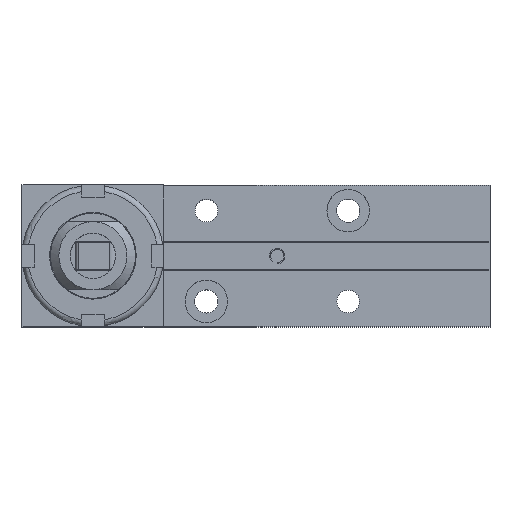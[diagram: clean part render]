
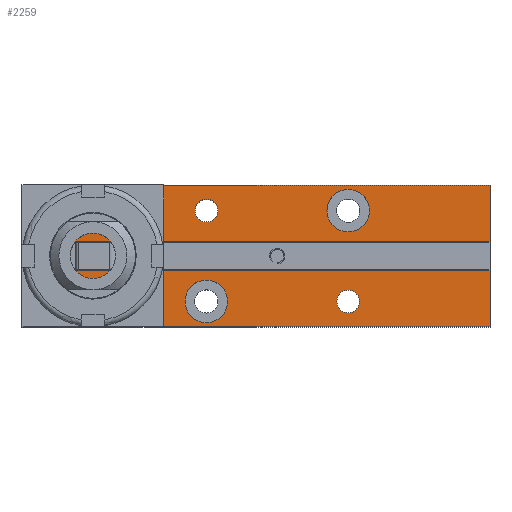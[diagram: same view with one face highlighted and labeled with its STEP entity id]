
A CAD part, top view. The second image highlights one B-rep face of the part: STEP entity #2259.
In plain terms, the highlighted planar face has unit normal (0, 0, 1).
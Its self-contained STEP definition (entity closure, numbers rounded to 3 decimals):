
#161=LINE('',#3450,#294);
#163=LINE('',#3453,#296);
#165=LINE('',#3519,#298);
#167=LINE('',#3525,#300);
#168=LINE('',#3534,#301);
#170=LINE('',#3538,#303);
#172=LINE('',#3541,#305);
#294=VECTOR('',#2735,10.);
#296=VECTOR('',#2739,73.5);
#298=VECTOR('',#2825,73.5);
#300=VECTOR('',#2831,10.);
#301=VECTOR('',#2842,82.5);
#303=VECTOR('',#2846,25.);
#305=VECTOR('',#2850,82.5);
#428=PLANE('',#2461);
#522=FACE_BOUND('',#790,.T.);
#523=FACE_BOUND('',#791,.T.);
#524=FACE_BOUND('',#792,.T.);
#525=FACE_BOUND('',#793,.T.);
#526=FACE_BOUND('',#794,.T.);
#527=FACE_BOUND('',#795,.T.);
#528=FACE_BOUND('',#796,.T.);
#529=FACE_BOUND('',#797,.T.);
#530=FACE_BOUND('',#798,.T.);
#790=EDGE_LOOP('',(#1699));
#791=EDGE_LOOP('',(#1700));
#792=EDGE_LOOP('',(#1701));
#793=EDGE_LOOP('',(#1702));
#794=EDGE_LOOP('',(#1703));
#795=EDGE_LOOP('',(#1704));
#796=EDGE_LOOP('',(#1705));
#797=EDGE_LOOP('',(#1706));
#798=EDGE_LOOP('',(#1707,#1708,#1709,#1710,#1711,#1712,#1713,#1714));
#961=CIRCLE('',#2395,2.5);
#973=CIRCLE('',#2413,2.);
#974=CIRCLE('',#2415,2.);
#977=CIRCLE('',#2420,3.75);
#980=CIRCLE('',#2426,3.75);
#983=CIRCLE('',#2433,2.05);
#986=CIRCLE('',#2439,2.05);
#989=CIRCLE('',#2445,2.05);
#992=CIRCLE('',#2451,2.05);
#1083=VERTEX_POINT('',#3399);
#1084=VERTEX_POINT('',#3401);
#1103=VERTEX_POINT('',#3447);
#1104=VERTEX_POINT('',#3449);
#1106=VERTEX_POINT('',#3457);
#1107=VERTEX_POINT('',#3460);
#1110=VERTEX_POINT('',#3468);
#1113=VERTEX_POINT('',#3477);
#1116=VERTEX_POINT('',#3487);
#1119=VERTEX_POINT('',#3496);
#1122=VERTEX_POINT('',#3505);
#1125=VERTEX_POINT('',#3514);
#1126=VERTEX_POINT('',#3517);
#1128=VERTEX_POINT('',#3523);
#1131=VERTEX_POINT('',#3533);
#1132=VERTEX_POINT('',#3537);
#1303=EDGE_CURVE('',#1083,#1084,#961,.T.);
#1327=EDGE_CURVE('',#1104,#1103,#161,.T.);
#1329=EDGE_CURVE('',#1103,#1084,#163,.T.);
#1331=EDGE_CURVE('',#1106,#1106,#973,.T.);
#1332=EDGE_CURVE('',#1107,#1107,#974,.T.);
#1335=EDGE_CURVE('',#1110,#1110,#977,.T.);
#1338=EDGE_CURVE('',#1113,#1113,#980,.T.);
#1341=EDGE_CURVE('',#1116,#1116,#983,.T.);
#1344=EDGE_CURVE('',#1119,#1119,#986,.T.);
#1347=EDGE_CURVE('',#1122,#1122,#989,.T.);
#1350=EDGE_CURVE('',#1125,#1125,#992,.T.);
#1352=EDGE_CURVE('',#1083,#1126,#165,.T.);
#1355=EDGE_CURVE('',#1126,#1128,#167,.T.);
#1358=EDGE_CURVE('',#1104,#1131,#168,.T.);
#1360=EDGE_CURVE('',#1132,#1131,#170,.T.);
#1362=EDGE_CURVE('',#1132,#1128,#172,.T.);
#1699=ORIENTED_EDGE('',*,*,#1331,.T.);
#1700=ORIENTED_EDGE('',*,*,#1332,.T.);
#1701=ORIENTED_EDGE('',*,*,#1335,.T.);
#1702=ORIENTED_EDGE('',*,*,#1338,.T.);
#1703=ORIENTED_EDGE('',*,*,#1341,.T.);
#1704=ORIENTED_EDGE('',*,*,#1344,.T.);
#1705=ORIENTED_EDGE('',*,*,#1347,.T.);
#1706=ORIENTED_EDGE('',*,*,#1350,.T.);
#1707=ORIENTED_EDGE('',*,*,#1352,.T.);
#1708=ORIENTED_EDGE('',*,*,#1355,.T.);
#1709=ORIENTED_EDGE('',*,*,#1362,.F.);
#1710=ORIENTED_EDGE('',*,*,#1360,.T.);
#1711=ORIENTED_EDGE('',*,*,#1358,.F.);
#1712=ORIENTED_EDGE('',*,*,#1327,.T.);
#1713=ORIENTED_EDGE('',*,*,#1329,.T.);
#1714=ORIENTED_EDGE('',*,*,#1303,.F.);
#2259=ADVANCED_FACE('',(#522,#523,#524,#525,#526,#527,#528,#529,#530),#428,
 .T.);
#2395=AXIS2_PLACEMENT_3D('',#3402,#2692,#2693);
#2413=AXIS2_PLACEMENT_3D('',#3458,#2744,#2745);
#2415=AXIS2_PLACEMENT_3D('',#3461,#2748,#2749);
#2420=AXIS2_PLACEMENT_3D('',#3469,#2758,#2759);
#2426=AXIS2_PLACEMENT_3D('',#3478,#2770,#2771);
#2433=AXIS2_PLACEMENT_3D('',#3488,#2784,#2785);
#2439=AXIS2_PLACEMENT_3D('',#3497,#2796,#2797);
#2445=AXIS2_PLACEMENT_3D('',#3506,#2808,#2809);
#2451=AXIS2_PLACEMENT_3D('',#3515,#2820,#2821);
#2461=AXIS2_PLACEMENT_3D('',#3540,#2848,#2849);
#2692=DIRECTION('center_axis',(0.,0.,1.));
#2693=DIRECTION('ref_axis',(-0.707,0.707,0.));
#2735=DIRECTION('',(0.,1.,0.));
#2739=DIRECTION('',(-1.,0.,0.));
#2744=DIRECTION('center_axis',(0.,0.,-1.));
#2745=DIRECTION('ref_axis',(1.,0.,0.));
#2748=DIRECTION('center_axis',(0.,0.,-1.));
#2749=DIRECTION('ref_axis',(1.,0.,0.));
#2758=DIRECTION('center_axis',(0.,0.,-1.));
#2759=DIRECTION('ref_axis',(1.,0.,0.));
#2770=DIRECTION('center_axis',(0.,0.,-1.));
#2771=DIRECTION('ref_axis',(1.,0.,0.));
#2784=DIRECTION('center_axis',(0.,0.,-1.));
#2785=DIRECTION('ref_axis',(-1.,0.,0.));
#2796=DIRECTION('center_axis',(0.,0.,-1.));
#2797=DIRECTION('ref_axis',(-1.,0.,0.));
#2808=DIRECTION('center_axis',(0.,0.,-1.));
#2809=DIRECTION('ref_axis',(-1.,0.,0.));
#2820=DIRECTION('center_axis',(0.,0.,-1.));
#2821=DIRECTION('ref_axis',(-1.,0.,0.));
#2825=DIRECTION('',(1.,0.,0.));
#2831=DIRECTION('',(0.,1.,0.));
#2842=DIRECTION('',(-1.,0.,0.));
#2846=DIRECTION('',(0.,-1.,0.));
#2848=DIRECTION('center_axis',(0.,0.,1.));
#2849=DIRECTION('ref_axis',(1.,0.,0.));
#2850=DIRECTION('',(1.,0.,0.));
#3399=CARTESIAN_POINT('',(-68.5,2.5,3.));
#3401=CARTESIAN_POINT('',(-68.5,-2.5,3.));
#3402=CARTESIAN_POINT('Origin',(-68.5,0.,3.));
#3447=CARTESIAN_POINT('',(5.,-2.5,3.));
#3449=CARTESIAN_POINT('',(5.,-12.5,3.));
#3450=CARTESIAN_POINT('',(5.,0.,3.));
#3453=CARTESIAN_POINT('',(-55.25,-2.5,3.));
#3457=CARTESIAN_POINT('',(-43.,8.,3.));
#3458=CARTESIAN_POINT('Origin',(-45.,8.,3.));
#3460=CARTESIAN_POINT('',(-18.,-8.,3.));
#3461=CARTESIAN_POINT('Origin',(-20.,-8.,3.));
#3468=CARTESIAN_POINT('',(-16.25,8.,3.));
#3469=CARTESIAN_POINT('Origin',(-20.,8.,3.));
#3477=CARTESIAN_POINT('',(-41.25,-8.,3.));
#3478=CARTESIAN_POINT('Origin',(-45.,-8.,3.));
#3487=CARTESIAN_POINT('',(-70.95,-8.,3.));
#3488=CARTESIAN_POINT('Origin',(-73.,-8.,3.));
#3496=CARTESIAN_POINT('',(-54.95,8.,3.));
#3497=CARTESIAN_POINT('Origin',(-57.,8.,3.));
#3505=CARTESIAN_POINT('',(-70.95,8.,3.));
#3506=CARTESIAN_POINT('Origin',(-73.,8.,3.));
#3514=CARTESIAN_POINT('',(-54.95,-8.,3.));
#3515=CARTESIAN_POINT('Origin',(-57.,-8.,3.));
#3517=CARTESIAN_POINT('',(5.,2.5,3.));
#3519=CARTESIAN_POINT('',(-55.25,2.5,3.));
#3523=CARTESIAN_POINT('',(5.,12.5,3.));
#3525=CARTESIAN_POINT('',(5.,0.,3.));
#3533=CARTESIAN_POINT('',(-77.5,-12.5,3.));
#3534=CARTESIAN_POINT('',(5.,-12.5,3.));
#3537=CARTESIAN_POINT('',(-77.5,12.5,3.));
#3538=CARTESIAN_POINT('',(-77.5,0.,3.));
#3540=CARTESIAN_POINT('Origin',(-77.5,0.,3.));
#3541=CARTESIAN_POINT('',(5.,12.5,3.));
